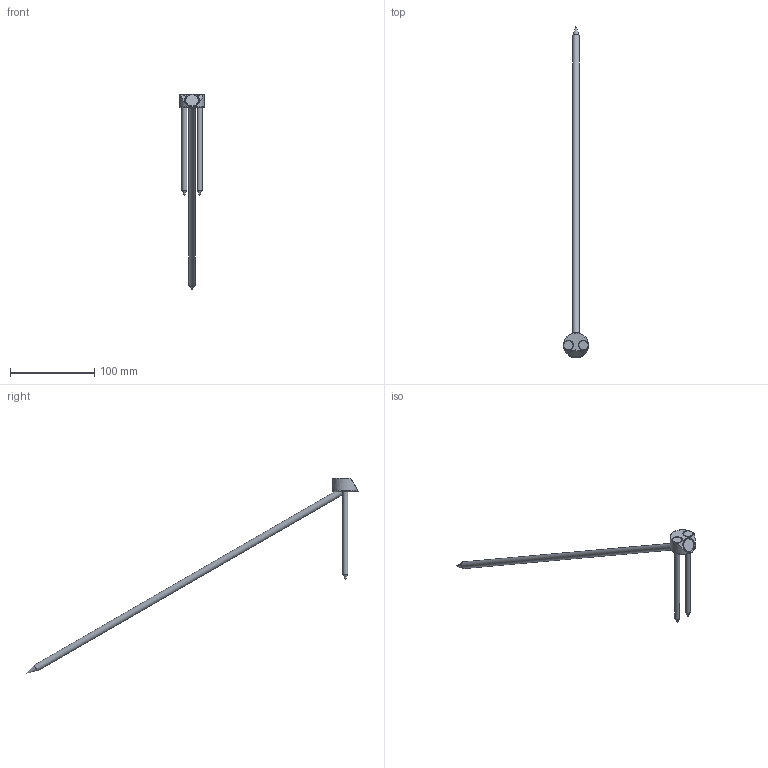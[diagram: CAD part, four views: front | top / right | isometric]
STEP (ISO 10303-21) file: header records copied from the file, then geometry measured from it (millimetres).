
FILE_DESCRIPTION(/* description */ ('Unknown'),/* implementation_level */ '2;1');
FILE_NAME(/* name */ 'T-JOINT_D30_W30_2xSK 6x120_1xSK 8x450',/* time_stamp */ '2022-02-03T09:36:56+01:00',/* author */ ('Unknown'),/* organization */ ('Unknown'),/* preprocessor_version */ 'ST-DEVELOPER v16.7',/* originating_system */ 'Solid Edge',/* authorisation */ 'Unknown');
FILE_SCHEMA (('AUTOMOTIVE_DESIGN {1 0 10303 214 3 1 1}'));
Length unit declared in the file: millimetre
Products named in the file (4): T-Joint_D30_W30_2xSK6x120_1xSK8x450; T-Joint_D30_W30; SK Schraube 6x120_ohne_Gewinde; SK Knapp Schraube 8x450_ohne_Gewinde_22042020
Assembly tree (4 placements, depth 2):
  T-Joint_D30_W30_2xSK6x120_1xSK8x450
    T-Joint_D30_W30
    SK Schraube 6x120_ohne_Gewinde  x2
    SK Knapp Schraube 8x450_ohne_Gewinde_22042020
Bounding box: 29.76 x 394.35 x 232.14 mm (x, y, z)
Volume: 36363.2 mm3; surface area: 19616.4 mm2
Topology: 4 solids, 4 shells, 33 faces, 74 edges, 45 vertices
Faces by surface type: cylinder 11, cone 10, plane 9, torus 3
Full cylindrical faces by diameter (mm): 6 x3, 6.2 x2, 8 x2, 10.5 x1, 11 x2
Entity records: 760 total; most frequent: CARTESIAN_POINT 140, DIRECTION 126, ORIENTED_EDGE 78, AXIS2_PLACEMENT_3D 62, FACE_BOUND 48, EDGE_LOOP 47, EDGE_CURVE 39, VERTEX_POINT 33
